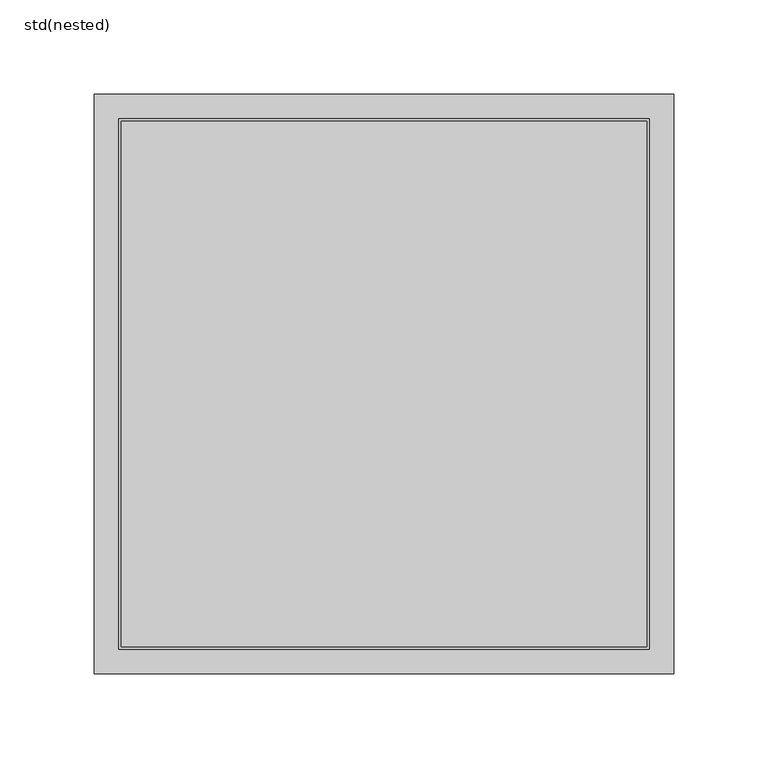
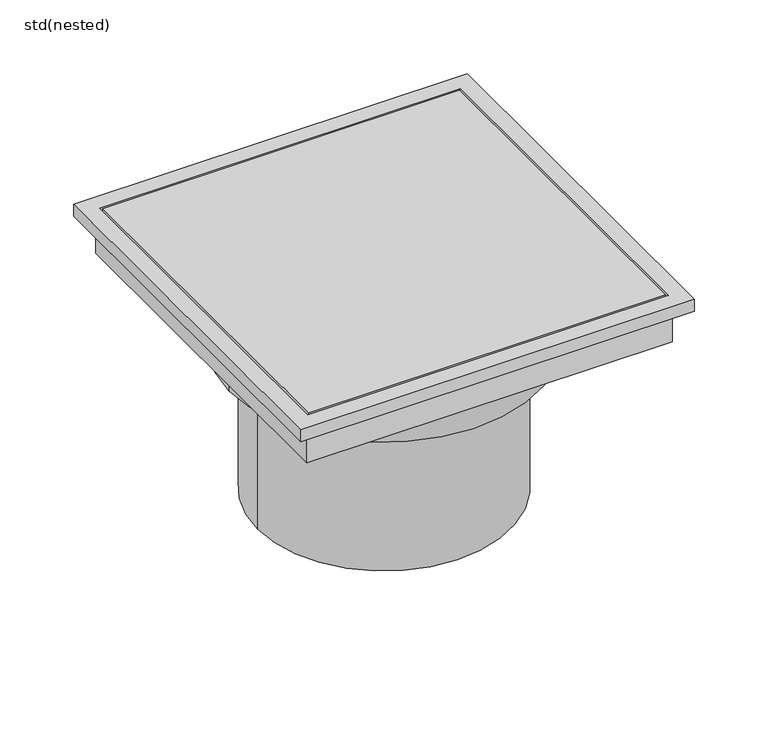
"""IFC4 building model written with IfcOpenShell, lengths in millimetres: sanitary terminal geometry, ZZZ_do not use_PF_ST_WPB_standard attachment gratings_CR 218_ACO : std(nested)."""

import ifcopenshell
import ifcopenshell.guid

model = None  # the IFC model being written
_history = None  # IfcOwnerHistory: only IFC2X3 demands one
_inside = {}  # id of a spatial element -> (the spatial element, [elements in it])
_under = {}  # id of a project, library or spatial element -> (it, [spatial elements below it])
_declared = {}  # id of a project -> (the project, [libraries it declares])
_typed = {}  # id of a type object -> (the type object, [elements of that type])
_made_of = {}  # id of a material, layer set ... -> (it, [elements and type objects made of it])


def new_model(schema):
    """Start an empty IFC model of exactly this schema.

    Asked for "IFC4X3", IfcOpenShell would pick the latest addendum, in which some entities
    have other attributes; the version numbers below select the first issue.
    IFC2X3 requires an IfcOwnerHistory on every rooted entity: one is made here for all.
    """
    global model, _history
    if schema == "IFC4X3":
        model = ifcopenshell.file(schema_version=(4, 3, 0, 0))
    else:
        model = ifcopenshell.file(schema=schema)
    _inside.clear()
    _under.clear()
    _declared.clear()
    _typed.clear()
    _made_of.clear()
    _history = None
    if model.schema == "IFC2X3":
        org = make("IfcOrganization", Name="unknown")
        user = make(
            "IfcPersonAndOrganization",
            ThePerson=make("IfcPerson", FamilyName="unknown"),
            TheOrganization=org,
        )
        app = make(
            "IfcApplication",
            ApplicationDeveloper=org,
            Version="unknown",
            ApplicationFullName="unknown",
            ApplicationIdentifier="unknown",
        )
        _history = make(
            "IfcOwnerHistory",
            OwningUser=user,
            OwningApplication=app,
            ChangeAction="ADDED",
            CreationDate=0,
        )
    return model


def make(cls, **values):
    """One entity of the class cls with the attributes given. An attribute that is None is left unset."""
    return model.create_entity(
        cls, **{name: value for name, value in values.items() if value is not None}
    )


def rooted(cls, **values):
    """An entity with a GlobalId (a new one), such as an element, a storey or a relation."""
    return make(cls, GlobalId=ifcopenshell.guid.new(), OwnerHistory=_history, **values)


def si_unit(unit_type, name, prefix=None):
    """IfcSIUnit, for example si_unit("LENGTHUNIT", "METRE", prefix="MILLI")."""
    return make("IfcSIUnit", UnitType=unit_type, Prefix=prefix, Name=name)


def assignment(units):
    """IfcUnitAssignment: the units of a project."""
    return None if units is None else make("IfcUnitAssignment", Units=units)


def point(xyz):
    """IfcCartesianPoint."""
    return None if xyz is None else make("IfcCartesianPoint", Coordinates=xyz)


def direction(xyz):
    """IfcDirection."""
    return None if xyz is None else make("IfcDirection", DirectionRatios=xyz)


def frame(location, z_axis=None, x_axis=None):
    """IfcAxis2Placement3D, a coordinate frame: its origin and axes. An axis left out is left unset."""
    return make(
        "IfcAxis2Placement3D",
        Location=point(location),
        Axis=direction(z_axis),
        RefDirection=direction(x_axis),
    )


def origin():
    """The frame at (0, 0, 0) with its axes left unset."""
    return frame((0.0, 0.0, 0.0))


def place(relative_to, where):
    """IfcLocalPlacement: puts the frame where relative to a parent placement (None: the world)."""
    return make(
        "IfcLocalPlacement", PlacementRelTo=relative_to, RelativePlacement=where
    )


def context(
    kind, dimensions, precision=None, world=None, true_north=None, identifier=None
):
    """IfcGeometricRepresentationContext, for example the 3D "Model" context."""
    return make(
        "IfcGeometricRepresentationContext",
        ContextIdentifier=identifier,
        ContextType=kind,
        CoordinateSpaceDimension=dimensions,
        Precision=precision,
        WorldCoordinateSystem=world,
        TrueNorth=true_north,
    )


def project(units=None, contexts=None):
    """IfcProject with its units and contexts."""
    return rooted(
        "IfcProject",
        Name="project",
        RepresentationContexts=contexts,
        UnitsInContext=assignment(units),
    )


def spatial(cls, under=None, at=None, **own):
    """A site, building, storey or space (cls), placed at a placement, below another one or the project."""
    s = rooted(cls, ObjectPlacement=at, **own)
    if under is not None:
        _under.setdefault(under.id(), (under, []))[1].append(s)
    return s


def circle_curve(where, radius):
    """IfcCircle in the frame where."""
    return make("IfcCircle", Position=where, Radius=radius)


def shape(context_of_items, identifier, shape_type, items):
    """IfcShapeRepresentation: the items that make up one representation, for example the "Body"."""
    return make(
        "IfcShapeRepresentation",
        ContextOfItems=context_of_items,
        RepresentationIdentifier=identifier,
        RepresentationType=shape_type,
        Items=items,
    )


def source(mapping_origin, context_of_items, identifier, shape_type, items):
    """IfcRepresentationMap: a shape defined once, which mapped items show again and again."""
    return make(
        "IfcRepresentationMap",
        MappingOrigin=mapping_origin,
        MappedRepresentation=shape(context_of_items, identifier, shape_type, items),
    )


def transform(
    local_origin,
    x_axis=None,
    y_axis=None,
    z_axis=None,
    scale=None,
    scale2=None,
    scale3=None,
    uniform=True,
):
    """IfcCartesianTransformationOperator3D, or its non-uniform kind. x_axis, y_axis, z_axis: its Axis1, 2, 3."""
    if uniform:
        return make(
            "IfcCartesianTransformationOperator3D",
            Axis1=direction(x_axis),
            Axis2=direction(y_axis),
            LocalOrigin=point(local_origin),
            Scale=scale,
            Axis3=direction(z_axis),
        )
    return make(
        "IfcCartesianTransformationOperator3DnonUniform",
        Axis1=direction(x_axis),
        Axis2=direction(y_axis),
        LocalOrigin=point(local_origin),
        Scale=scale,
        Axis3=direction(z_axis),
        Scale2=scale2,
        Scale3=scale3,
    )


def mapped(mapping_source, mapping_target):
    """IfcMappedItem: shows the shape of a source again, moved by a transform."""
    return make(
        "IfcMappedItem", MappingSource=mapping_source, MappingTarget=mapping_target
    )


def made_of(thing, what):
    """Note that an element or type object is made of a material, layer set ...; save() writes the relation."""
    if what is not None:
        _made_of.setdefault(what.id(), (what, []))[1].append(thing)
    return thing


def element(
    cls,
    number,
    at=None,
    inside=None,
    cuts=None,
    type_object=None,
    material=None,
    context=None,
    identifier="Body",
    shape_type=None,
    held_by="IfcProductDefinitionShape",
    body=None,
    shapes=None,
    **own,
):
    """One element of the class cls, such as IfcWall. Its Tag is "e" and its number.

    at: its placement. inside: the storey or other place that contains it. cuts: it is an
    opening in that element (IfcRelVoidsElement). A single representation is given by context,
    identifier, shape_type and body (its items); several are given by shapes. held_by: the class
    of the entity that holds the representations. save() writes the other relations.
    """
    e = rooted(cls, Tag="e%d" % number, ObjectPlacement=at, **own)
    if body is not None:
        shapes = [shape(context, identifier, shape_type, body)]
    if shapes is not None:
        e.Representation = make(held_by, Representations=shapes)
    if inside is not None:
        _inside.setdefault(inside.id(), (inside, []))[1].append(e)
    if cuts is not None:
        rooted(
            "IfcRelVoidsElement", RelatingBuildingElement=cuts, RelatedOpeningElement=e
        )
    if type_object is not None:
        _typed.setdefault(type_object.id(), (type_object, []))[1].append(e)
    return made_of(e, material)


def aggregate(whole, parts):
    """IfcRelAggregates: a whole, such as a stair, and the parts it consists of."""
    return rooted("IfcRelAggregates", RelatingObject=whole, RelatedObjects=parts)


def save(model, path):
    """Write the relations noted so far, then the file.

    IfcRelAggregates (storeys below a building ...), IfcRelContainedInSpatialStructure (elements
    in a storey), IfcRelDefinesByType, IfcRelAssociatesMaterial and IfcRelDeclares: one each for
    every whole, place, type object, material and project.
    """
    for whole, parts in _under.values():
        aggregate(whole, parts)
    for where, things in _inside.values():
        rooted(
            "IfcRelContainedInSpatialStructure",
            RelatedElements=things,
            RelatingStructure=where,
        )
    for kind, things in _typed.values():
        rooted("IfcRelDefinesByType", RelatedObjects=things, RelatingType=kind)
    for what, things in _made_of.values():
        rooted("IfcRelAssociatesMaterial", RelatedObjects=things, RelatingMaterial=what)
    for by, libraries in _declared.values():
        rooted("IfcRelDeclares", RelatingContext=by, RelatedDefinitions=libraries)
    model.write(path)


def plane_surface(at):
    """IfcPlane: the flat surface through the origin of the frame at, square to its z axis."""
    return make("IfcPlane", Position=at)


def cylinder_surface(at, radius):
    """IfcCylindricalSurface: all points at the distance radius from the z axis of the frame at."""
    return make("IfcCylindricalSurface", Position=at, Radius=radius)


def advanced_brep(points, edges, surfaces, faces):
    """IfcAdvancedBrep: a solid bounded by faces that lie on surfaces and meet in shared edges.

    An edge is (start, end): straight between two places in points (the first is 0);
    or (start, end, curve); or (start, end, curve, False) where it runs against its curve.
    A face is (place in surfaces, loops), or (place, loops, False) where it looks against
    its surface's normal. A loop lists edges by number (the first is 1), with a minus sign
    where the edge is run from its end to its start. The first loop is the outer one.
    """
    corners = [point(p) for p in points]
    vertices = [make("IfcVertexPoint", VertexGeometry=c) for c in corners]
    made = []
    for start, end, *more in edges:
        made.append(
            make(
                "IfcEdgeCurve",
                EdgeStart=vertices[start],
                EdgeEnd=vertices[end],
                EdgeGeometry=more[0] if more else make("IfcPolyline", Points=[corners[start], corners[end]]),
                SameSense=more[1] if len(more) > 1 else True,
            )
        )
    hull = []
    for where, loops, *sense in faces:
        bounds = []
        for j, loop in enumerate(loops):
            ring = [make("IfcOrientedEdge", EdgeElement=made[abs(k) - 1], Orientation=k > 0) for k in loop]
            bounds.append(
                make(
                    "IfcFaceOuterBound" if j == 0 else "IfcFaceBound",
                    Bound=make("IfcEdgeLoop", EdgeList=ring),
                    Orientation=True,
                )
            )
        hull.append(make("IfcAdvancedFace", Bounds=bounds, FaceSurface=surfaces[where], SameSense=sense[0] if sense else True))
    return make("IfcAdvancedBrep", Outer=make("IfcClosedShell", CfsFaces=hull))


def std_nested_af68e37f(model_context):
    return source(origin(), model_context, "Body", "AdvancedBrep", [
        advanced_brep(
        [(-139.5, -139.5, 0.0), (139.5, -139.5, 0.0), (139.5, 139.5, 0.0), (-139.5, 139.5, 0.0), (-139.5, -139.5, -36.0), (139.5, -139.5, -36.0), (139.5, 139.5, -36.0), (-139.5, 139.5, -36.0), (-99.0, 0.0, -195.0), (99.0, 0.0, -195.0), (99.0, 0.0, -73.0), (-99.0, 0.0, -73.0), (-121.0, 0.0, -73.0), (121.0, 0.0, -73.0), (121.0, 0.0, -38.0), (-121.0, 0.0, -38.0), (154.0, 154.0, -10.0), (154.0, 154.0, 0.0), (154.0, -154.0, 0.0), (154.0, -154.0, -10.0), (143.0, 143.0, -38.0), (143.0, 143.0, -10.0), (143.0, -143.0, -10.0), (143.0, -143.0, -38.0), (141.0, 141.0, 0.0), (141.0, 141.0, -36.0), (141.0, -141.0, -36.0), (141.0, -141.0, 0.0), (-154.0, -154.0, 0.0), (-154.0, -154.0, -10.0), (-143.0, -143.0, -10.0), (-143.0, -143.0, -38.0), (-141.0, -141.0, -36.0), (-141.0, -141.0, 0.0), (-154.0, 154.0, 0.0), (-154.0, 154.0, -10.0), (-143.0, 143.0, -10.0), (-143.0, 143.0, -38.0), (-141.0, 141.0, -36.0), (-141.0, 141.0, 0.0)],
        [
            (0, 1),
            (1, 2),
            (2, 3),
            (3, 0),
            (0, 4),
            (4, 5),
            (5, 1),
            (5, 6),
            (6, 2),
            (6, 7),
            (7, 3),
            (7, 4),
            (8, 9, circle_curve(frame((0.0, 0.0, -195.0), z_axis=(0.0, 0.0, -1.0), x_axis=(1.0, 0.0, 0.0)), 99.0)),
            (9, 8, circle_curve(frame((0.0, 0.0, -195.0), z_axis=(0.0, 0.0, -1.0), x_axis=(1.0, 0.0, 0.0)), 99.0)),
            (9, 10),
            (10, 11, circle_curve(frame((0.0, 0.0, -73.0), z_axis=(0.0, 0.0, -1.0), x_axis=(1.0, 0.0, 0.0)), 99.0)),
            (11, 8),
            (11, 10, circle_curve(frame((0.0, 0.0, -73.0), z_axis=(0.0, 0.0, -1.0), x_axis=(1.0, 0.0, 0.0)), 99.0)),
            (12, 13, circle_curve(frame((0.0, 0.0, -73.0), z_axis=(0.0, 0.0, 1.0), x_axis=(1.0, 0.0, 0.0)), 121.0)),
            (13, 14),
            (14, 15, circle_curve(frame((0.0, 0.0, -38.0), z_axis=(0.0, 0.0, -1.0), x_axis=(1.0, 0.0, 0.0)), 121.0)),
            (15, 12),
            (13, 12, circle_curve(frame((0.0, 0.0, -73.0), z_axis=(0.0, 0.0, 1.0), x_axis=(1.0, 0.0, 0.0)), 121.0)),
            (15, 14, circle_curve(frame((0.0, 0.0, -38.0), z_axis=(0.0, 0.0, -1.0), x_axis=(1.0, 0.0, 0.0)), 121.0)),
            (16, 17),
            (17, 18),
            (18, 19),
            (19, 16),
            (20, 21),
            (21, 22),
            (22, 23),
            (23, 20),
            (24, 25),
            (25, 26),
            (26, 27),
            (27, 24),
            (18, 28),
            (28, 29),
            (29, 19),
            (22, 30),
            (30, 31),
            (31, 23),
            (26, 32),
            (32, 33),
            (33, 27),
            (28, 34),
            (34, 35),
            (35, 29),
            (30, 36),
            (36, 37),
            (37, 31),
            (32, 38),
            (38, 39),
            (39, 33),
            (17, 34),
            (39, 24),
            (16, 35),
            (21, 36),
            (20, 37),
            (25, 38),
        ],
        [
            plane_surface(frame((139.5, -139.5, 0.0), z_axis=(0.0, 0.0, 1.0), x_axis=(1.0, 0.0, 0.0))),
            plane_surface(frame((-139.5, -139.5, 0.0), z_axis=(0.0, -1.0, 0.0), x_axis=(0.0, 0.0, -1.0))),
            plane_surface(frame((139.5, -139.5, 0.0), z_axis=(1.0, 0.0, 0.0), x_axis=(0.0, 0.0, -1.0))),
            plane_surface(frame((139.5, 139.5, 0.0), z_axis=(0.0, 1.0, 0.0), x_axis=(0.0, 0.0, -1.0))),
            plane_surface(frame((-139.5, 139.5, 0.0), z_axis=(-1.0, 0.0, 0.0), x_axis=(0.0, 0.0, -1.0))),
            plane_surface(frame((99.0, 0.0, -195.0), z_axis=(0.0, 0.0, -1.0), x_axis=(0.0, -1.0, 0.0))),
            cylinder_surface(frame((0.0, 0.0, -195.0), z_axis=(0.0, 0.0, 1.0), x_axis=(1.0, 0.0, 0.0)), 99.0),
            cylinder_surface(frame((0.0, 0.0, -73.0), z_axis=(0.0, 0.0, 1.0), x_axis=(1.0, 0.0, 0.0)), 121.0),
            plane_surface(frame((154.0, 154.0, 0.0), z_axis=(1.0, 0.0, 0.0), x_axis=(0.0, -1.0, 0.0))),
            plane_surface(frame((143.0, 143.0, -10.0), z_axis=(1.0, 0.0, 0.0), x_axis=(0.0, -1.0, 0.0))),
            plane_surface(frame((141.0, 141.0, -36.0), z_axis=(-1.0, 0.0, 0.0), x_axis=(0.0, -1.0, 0.0))),
            plane_surface(frame((154.0, -154.0, 0.0), z_axis=(0.0, -1.0, 0.0), x_axis=(-1.0, 0.0, 0.0))),
            plane_surface(frame((143.0, -143.0, -10.0), z_axis=(0.0, -1.0, 0.0), x_axis=(-1.0, 0.0, 0.0))),
            plane_surface(frame((141.0, -141.0, -36.0), z_axis=(0.0, 1.0, 0.0), x_axis=(-1.0, 0.0, 0.0))),
            plane_surface(frame((-154.0, -154.0, 0.0), z_axis=(-1.0, 0.0, 0.0), x_axis=(0.0, 1.0, 0.0))),
            plane_surface(frame((-143.0, -143.0, -10.0), z_axis=(-1.0, 0.0, 0.0), x_axis=(0.0, 1.0, 0.0))),
            plane_surface(frame((-141.0, -141.0, -36.0), z_axis=(1.0, 0.0, 0.0), x_axis=(0.0, 1.0, 0.0))),
            plane_surface(frame((-141.0, 141.0, 0.0), z_axis=(0.0, 0.0, 1.0), x_axis=(1.0, 0.0, 0.0))),
            plane_surface(frame((-154.0, 154.0, 0.0), z_axis=(0.0, 1.0, 0.0), x_axis=(1.0, 0.0, 0.0))),
            plane_surface(frame((-154.0, 154.0, -10.0), z_axis=(0.0, 0.0, -1.0), x_axis=(1.0, 0.0, 0.0))),
            plane_surface(frame((-143.0, 143.0, -10.0), z_axis=(0.0, 1.0, 0.0), x_axis=(1.0, 0.0, 0.0))),
            plane_surface(frame((-143.0, 143.0, -38.0), z_axis=(0.0, 0.0, -1.0), x_axis=(1.0, 0.0, 0.0))),
            plane_surface(frame((0.0, 0.0, -36.0), z_axis=(0.0, 0.0, 1.0), x_axis=(1.0, 0.0, 0.0))),
            plane_surface(frame((-141.0, 141.0, -36.0), z_axis=(0.0, -1.0, 0.0), x_axis=(1.0, 0.0, 0.0))),
            plane_surface(frame((121.0, 0.0, -73.0), z_axis=(0.0, 0.0, -1.0), x_axis=(0.0, -1.0, 0.0))),
        ],
        [
            (0, [[1, 2, 3, 4]]),
            (1, [[-1, 5, 6, 7]]),
            (2, [[-2, -7, 8, 9]]),
            (3, [[-3, -9, 10, 11]]),
            (4, [[-4, -11, 12, -5]]),
            (5, [[13, 14]]),
            (6, [[-14, 15, 16, 17]]),
            (6, [[-13, -17, 18, -15]]),
            (7, [[19, 20, 21, 22]]),
            (7, [[23, -22, 24, -20]]),
            (8, [[25, 26, 27, 28]]),
            (9, [[29, 30, 31, 32]]),
            (10, [[33, 34, 35, 36]]),
            (11, [[-27, 37, 38, 39]]),
            (12, [[-31, 40, 41, 42]]),
            (13, [[-35, 43, 44, 45]]),
            (14, [[-38, 46, 47, 48]]),
            (15, [[-41, 49, 50, 51]]),
            (16, [[-44, 52, 53, 54]]),
            (17, [[-26, 55, -46, -37], [-36, -45, -54, 56]]),
            (18, [[-25, 57, -47, -55]]),
            (19, [[-28, -39, -48, -57], [-30, 58, -49, -40]]),
            (20, [[-29, 59, -50, -58]]),
            (21, [[-32, -42, -51, -59], [-21, -24]]),
            (22, [[-34, 60, -52, -43], [-6, -12, -10, -8]]),
            (23, [[-33, -56, -53, -60]]),
            (24, [[-23, -19], [-16, -18]]),
        ],
    ),
    ])


if __name__ == "__main__":
    model = new_model("IFC4")
    model_context = context("Model", 3, world=origin())
    ifc_project = project(units=[si_unit("LENGTHUNIT", "METRE", prefix="MILLI")], contexts=[model_context])
    site = spatial("IfcSite", under=ifc_project)
    building = spatial("IfcBuilding", under=site)
    placement = place(None, origin())
    std_nested_shape = std_nested_af68e37f(model_context)
    element("IfcSanitaryTerminal", 1, ObjectType="ZZZ_do not use_PF_ST_WPB_standard attachment gratings_CR 218_ACO : std(nested)", at=placement, inside=building, context=model_context, shape_type="MappedRepresentation", body=[
        mapped(std_nested_shape, transform((0.0, 0.0, 0.0), x_axis=(1.0, 0.0, 0.0), y_axis=(0.0, 1.0, 0.0), z_axis=(0.0, 0.0, 1.0))),
    ])
    save(model, "model.ifc")
